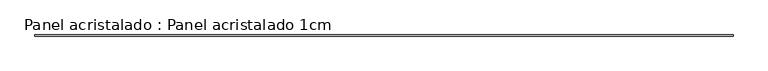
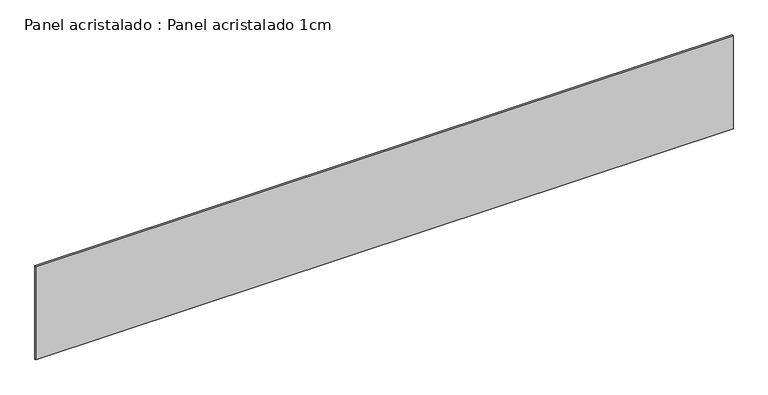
"""IFC4 building model written with IfcOpenShell, lengths in millimetres: plate geometry, Panel acristalado : Panel acristalado 1cm."""

from ifc_helpers import new_model, si_unit, origin, origin_with_axes, place, context, project, spatial, polyline, outline, extrude, source, transform, mapped, element, save


def panel_acristalado_panel_acristalado_1cm_0fc71224(model_context):
    return source(origin(), model_context, "Body", "SweptSolid", [
        extrude(outline(polyline([(3007.2767155, -20.0), (3007.2767155, -30.0), (-3007.2767155, -30.0), (-3007.2767155, -20.0), (3007.2767155, -20.0)])), origin_with_axes(), (0.0, 0.0, 1.0), 850.0),
    ])


if __name__ == "__main__":
    model = new_model("IFC4")
    model_context = context("Model", 3, world=origin())
    ifc_project = project(units=[si_unit("LENGTHUNIT", "METRE", prefix="MILLI")], contexts=[model_context])
    site = spatial("IfcSite", under=ifc_project)
    building = spatial("IfcBuilding", under=site)
    placement = place(None, origin())
    panel_acristalado_panel_acristalado_1cm_shape = panel_acristalado_panel_acristalado_1cm_0fc71224(model_context)
    element("IfcPlate", 1, ObjectType="Panel acristalado : Panel acristalado 1cm", at=placement, inside=building, context=model_context, shape_type="MappedRepresentation", body=[
        mapped(panel_acristalado_panel_acristalado_1cm_shape, transform((0.0, 0.0, 0.0), x_axis=(1.0, 0.0, 0.0), y_axis=(0.0, 1.0, 0.0), z_axis=(0.0, 0.0, 1.0))),
    ])
    save(model, "model.ifc")
